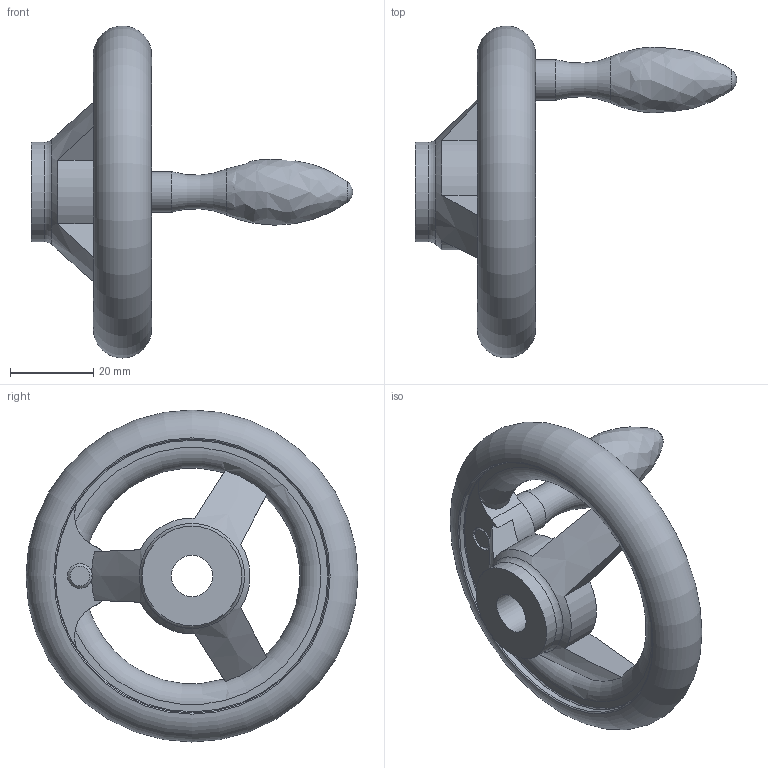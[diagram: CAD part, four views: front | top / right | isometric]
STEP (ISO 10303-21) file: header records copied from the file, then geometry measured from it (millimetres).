
FILE_DESCRIPTION( ( 'STEP AP203' ), '1' );
FILE_NAME( 'C:/Temp/Ganter_Step_05_03_2020/data/1_3/din_950/din_950_b/din_950_b_f/Handwheel DIN 950-AL-80-B10-F.stp', '2020-03-05T10:30:02', ( 'License CC BY-ND 4.0' ), ( 'CADENAS' ), ' ', 'PARTsolutions', ' ' );
FILE_SCHEMA( ( 'CONFIG_CONTROL_DESIGN' ) );
Length unit declared in the file: millimetre
Products named in the file (1): _Handwheel DIN 950-AL-80-B10-F
Bounding box: 77.5 x 80 x 80 mm (x, y, z)
Volume: 45498.3 mm3; surface area: 15568.4 mm2
Topology: 1 solids, 1 shells, 43 faces, 122 edges, 77 vertices
Faces by surface type: plane 14, cylinder 13, torus 11, cone 3, bspline 1, sphere 1
Full cylindrical faces by diameter (mm): 6 x1, 9.8 x1, 10 x1, 24 x2, 66 x2
Entity records: 1573 total; most frequent: CARTESIAN_POINT 535, DIRECTION 206, ORIENTED_EDGE 190, AXIS2_PLACEMENT_3D 97, EDGE_CURVE 95, VERTEX_POINT 72, EDGE_LOOP 67, FACE_OUTER_BOUND 59
